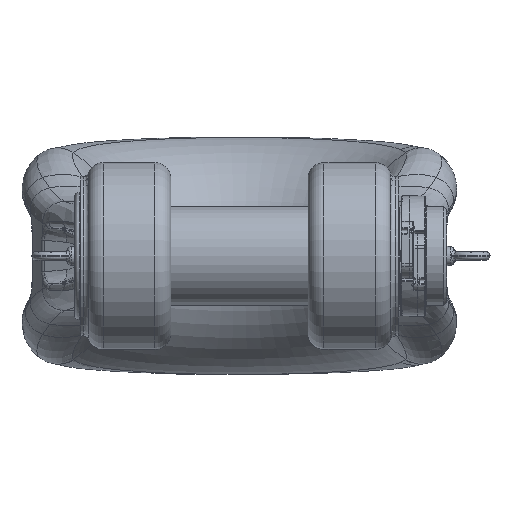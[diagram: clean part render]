
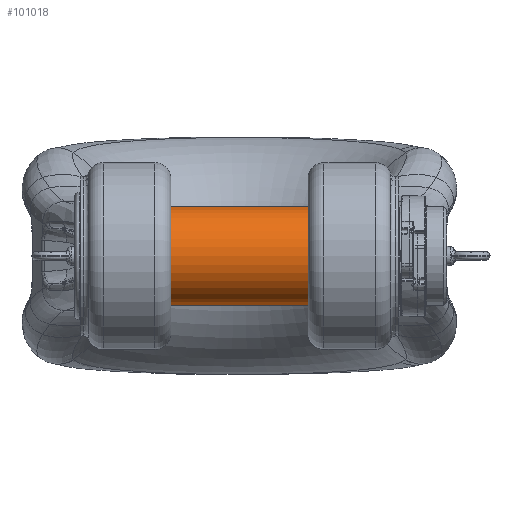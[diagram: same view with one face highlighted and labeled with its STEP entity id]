
A CAD part, front view. The second image highlights one B-rep face of the part: STEP entity #101018.
In plain terms, the highlighted cylindrical face has radius 90 mm (diameter 180 mm), a partial arc.
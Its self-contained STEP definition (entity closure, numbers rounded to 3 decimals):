
#93525=CARTESIAN_POINT('',(6.,0.,0.));
#93526=DIRECTION('',(1.,0.,0.));
#93527=DIRECTION('',(0.,0.,1.));
#93528=AXIS2_PLACEMENT_3D('',#93525,#93526,#93527);
#93533=CARTESIAN_POINT('',(556.5,0.,0.));
#93534=DIRECTION('',(-1.,0.,0.));
#93535=DIRECTION('',(0.,0.,-1.));
#93536=AXIS2_PLACEMENT_3D('',#93533,#93534,#93535);
#93541=DIRECTION('',(1.,0.,0.));
#93542=VECTOR('',#93541,550.5);
#93543=CARTESIAN_POINT('',(6.,0.,-90.));
#93544=LINE('',#93543,#93542);
#93587=DIRECTION('',(1.,0.,0.));
#93588=VECTOR('',#93587,550.5);
#93589=CARTESIAN_POINT('',(6.,0.,90.));
#93590=LINE('',#93589,#93588);
#93877=CARTESIAN_POINT('',(556.5,0.,-90.));
#93878=CARTESIAN_POINT('',(556.5,0.,90.));
#93879=VERTEX_POINT('',#93877);
#93880=VERTEX_POINT('',#93878);
#93903=CARTESIAN_POINT('',(6.,0.,90.));
#93904=CARTESIAN_POINT('',(6.,0.,-90.));
#93905=VERTEX_POINT('',#93903);
#93906=VERTEX_POINT('',#93904);
#101004=CARTESIAN_POINT('',(-33.,0.,0.));
#101005=DIRECTION('',(-1.,0.,0.));
#101006=DIRECTION('',(0.,0.,1.));
#101007=AXIS2_PLACEMENT_3D('',#101004,#101005,#101006);
#101008=CYLINDRICAL_SURFACE('',#101007,90.);
#101009=ORIENTED_EDGE('',*,*,#100991,.F.);
#101011=ORIENTED_EDGE('',*,*,#101010,.T.);
#101013=ORIENTED_EDGE('',*,*,#101012,.F.);
#101015=ORIENTED_EDGE('',*,*,#101014,.F.);
#101016=EDGE_LOOP('',(#101009,#101011,#101013,#101015));
#101017=FACE_OUTER_BOUND('',#101016,.F.);
#101018=ADVANCED_FACE('',(#101017),#101008,.T.);
#93529=CIRCLE('',#93528,90.);
#93537=CIRCLE('',#93536,90.);
#100991=EDGE_CURVE('',#93905,#93906,#93529,.T.);
#101010=EDGE_CURVE('',#93905,#93880,#93590,.T.);
#101012=EDGE_CURVE('',#93879,#93880,#93537,.T.);
#101014=EDGE_CURVE('',#93906,#93879,#93544,.T.);
